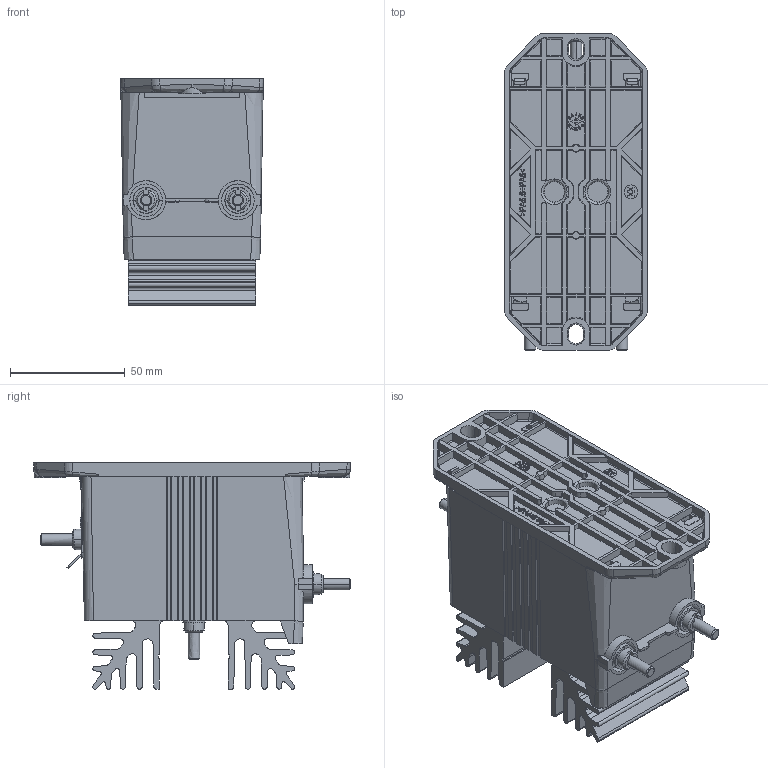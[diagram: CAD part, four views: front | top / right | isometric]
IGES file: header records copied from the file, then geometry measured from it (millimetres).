
Start section: Elysium IGES Interface
Global section: file name: C:\Users\pia\Desktop\LV 100xx\90.24.69.000.0.igs; native system: Creo Elements/Direct Modeling 20.3D  14-Nov-2022; preprocessor: Creo Element/Direct IGES_3D V2.2; author: Unknown; organization: Unknown; date: 20230717.130843; units: millimetre
Bounding box: 62.21 x 138.28 x 98.8 mm (x, y, z)
Volume: 443766.1 mm3; surface area: 90850.5 mm2
Topology: 1 solids, 15 shells, 2334 faces, 6429 edges, 4238 vertices
Faces by surface type: bspline 2334
